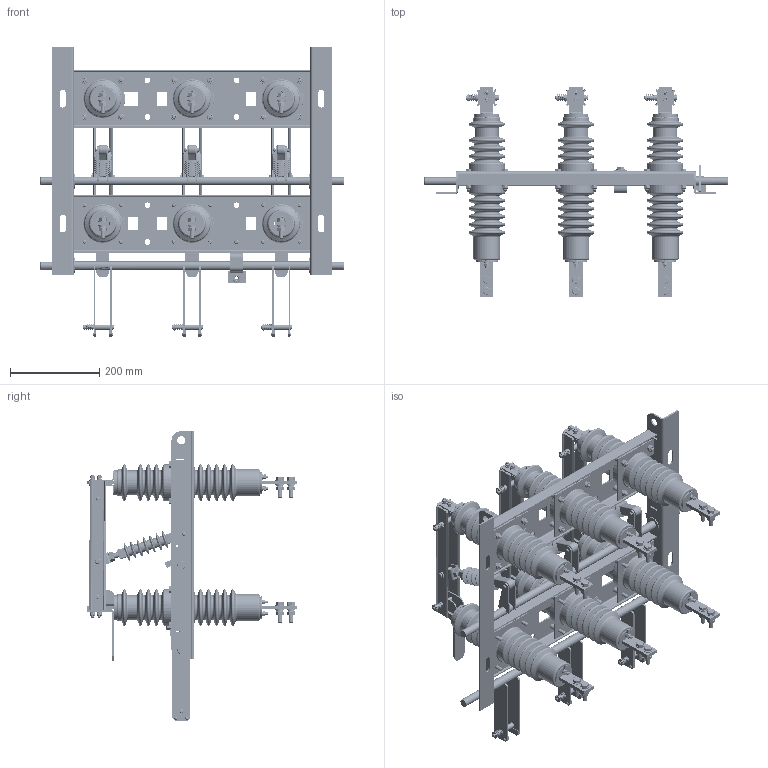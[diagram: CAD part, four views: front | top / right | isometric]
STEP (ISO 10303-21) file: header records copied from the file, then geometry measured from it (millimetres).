
FILE_DESCRIPTION (( 'STEP AP214' ), '1' );
FILE_NAME ('Ðàçúåäèíèòåëü âûñîêîâîëüòíûé ÐÂÔÇ-10630-II-III-È2-ÓÕË2 (ñ ïðèâ).STEP', '2023-02-06T07:04:53', ( '' ), ( '' ), 'SwSTEP 2.0', 'SolidWorks 2018', '' );
FILE_SCHEMA (( 'AUTOMOTIVE_DESIGN' ));
Products named in the file (1): Ðàçúåäèíèòåëü âûñîêîâîëüòíûé ÐÂÔÇ-10630-II-III-È2-ÓÕË2 (ñ ïðèâ)
Bounding box: 680 x 470 x 648.5 mm (x, y, z)
Volume: 9278893 mm3; surface area: 2408007.1 mm2
Topology: 1 solids, 4 shells, 4499 faces, 11446 edges, 7245 vertices
Faces by surface type: plane 2517, cylinder 1135, cone 510, torus 307, bspline 18, sphere 12
Full cylindrical faces by diameter (mm): 4 x21, 6 x54, 6.2 x24, 6.4 x24, 8 x78, 8.2 x44, 8.3 x6, 8.376 x4, 8.4 x9, 8.5 x43, 10 x49, 10.5 x28, 11 x11, 11.691 x12, 12 x61, 12.1 x2, 12.2 x3, 13 x17, 14.077 x15, 16 x9, 18 x4, 18.1 x2, 18.915 x4, 20 x28, 20.047 x3, 22 x18, 32.8 x6, 34 x4, 35 x6, 50 x3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
Entity records: 200730 total; most frequent: CARTESIAN_POINT 101286, DIRECTION 20071, ORIENTED_EDGE 19118, EDGE_CURVE 9559, AXIS2_PLACEMENT_3D 7803, VERTEX_POINT 6761, EDGE_LOOP 6668, FACE_OUTER_BOUND 5383
